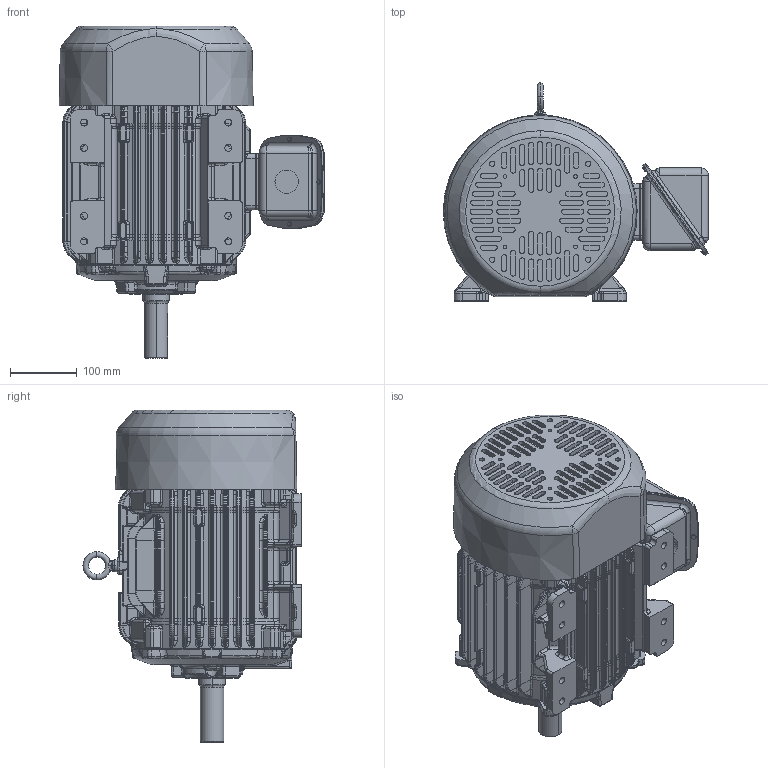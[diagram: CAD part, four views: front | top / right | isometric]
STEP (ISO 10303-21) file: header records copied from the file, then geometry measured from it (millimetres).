
FILE_DESCRIPTION((''),'2;1');
FILE_NAME('210_3D_ASM_ASM','2017-06-27T',('EMD2341'),('Nidec Motor Corporation'),'CREO PARAMETRIC BY PTC INC, 2016130','CREO PARAMETRIC BY PTC INC, 2016130','');
FILE_SCHEMA(('CONFIG_CONTROL_DESIGN'));
Length unit declared in the file: inch
Products named in the file (10): 210_FOOTED_FRAME; 210_DE_BRKT; 0133167; 210_NFLG; 210_STL_FCVR; 210_STL_GSK_OBB; 210_STL_OBB; 210_STL_GSK_OBC; 210_STL_OBC; 210_3D_ASM_ASM
Assembly tree (9 placements, depth 2):
  210_3D_ASM_ASM
    210_FOOTED_FRAME
    210_DE_BRKT
    0133167
    210_NFLG
    210_STL_FCVR
    210_STL_GSK_OBB
    210_STL_OBB
    210_STL_GSK_OBC
    210_STL_OBC
Bounding box: 397.43 x 326.64 x 497.08 mm (x, y, z)
Volume: 22334047.2 mm3; surface area: 1089739.5 mm2
Topology: 9 solids, 9 shells, 4311 faces, 9782 edges, 5564 vertices
Faces by surface type: bspline 1871, cylinder 1041, plane 798, torus 261, extrusion 180, sphere 118, cone 42
Entity records: 199392 total; most frequent: CARTESIAN_POINT 115436, ORIENTED_EDGE 19564, DIRECTION 14253, EDGE_CURVE 9782, VERTEX_POINT 5564, AXIS2_PLACEMENT_3D 5552, EDGE_LOOP 4414, FACE_OUTER_BOUND 4311
